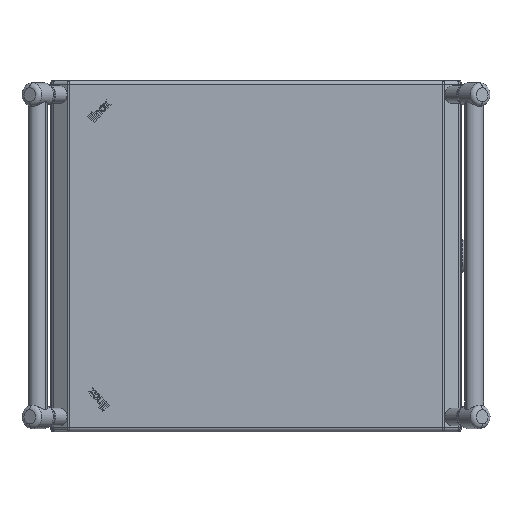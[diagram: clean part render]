
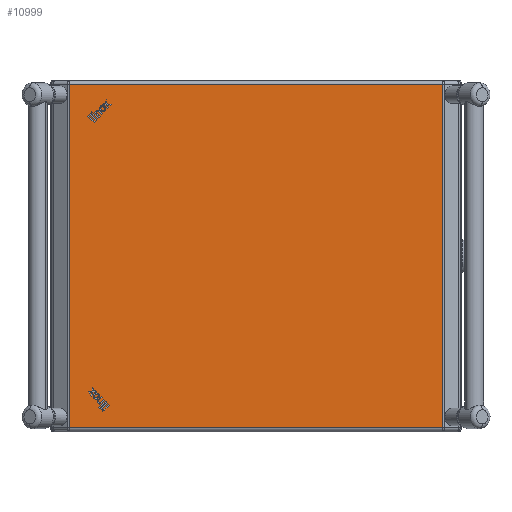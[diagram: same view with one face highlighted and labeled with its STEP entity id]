
A CAD part, top view. The second image highlights one B-rep face of the part: STEP entity #10999.
In plain terms, the highlighted planar face has unit normal (0, 0, 1).
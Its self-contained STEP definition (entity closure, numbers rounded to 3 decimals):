
#31 = DIRECTION ( 'NONE',  ( -1., 0., 0. ) ) ;
#711 = DIRECTION ( 'NONE',  ( 1., 0., 0. ) ) ;
#3689 = EDGE_LOOP ( 'NONE', ( #19853, #7361, #5133, #18988 ) ) ;
#4204 = CARTESIAN_POINT ( 'NONE',  ( 159.294, -146.35, 26.5 ) ) ;
#4538 = EDGE_CURVE ( 'NONE', #21639, #25942, #8353, .T. ) ;
#5133 = ORIENTED_EDGE ( 'NONE', *, *, #6192, .T. ) ;
#5534 = CARTESIAN_POINT ( 'NONE',  ( 159.294, -149.35, 26.5 ) ) ;
#6115 = CARTESIAN_POINT ( 'NONE',  ( -159.294, 146.35, 26.5 ) ) ;
#6192 = EDGE_CURVE ( 'NONE', #25942, #23770, #14739, .T. ) ;
#6253 = CARTESIAN_POINT ( 'NONE',  ( 159.294, 146.35, 26.5 ) ) ;
#7361 = ORIENTED_EDGE ( 'NONE', *, *, #4538, .T. ) ;
#8353 = LINE ( 'NONE', #24152, #10636 ) ;
#10225 = CARTESIAN_POINT ( 'NONE',  ( 174.35, -149.35, 26.5 ) ) ;
#10276 = CARTESIAN_POINT ( 'NONE',  ( -159.294, -149.35, 26.5 ) ) ;
#10424 = LINE ( 'NONE', #10276, #11781 ) ;
#10636 = VECTOR ( 'NONE', #28320, 1000. ) ;
#10902 = CARTESIAN_POINT ( 'NONE',  ( -160.25, 146.35, 26.5 ) ) ;
#10999 = ADVANCED_FACE ( 'NONE', ( #26332 ), #28411, .T. ) ;
#11781 = VECTOR ( 'NONE', #28317, 1000. ) ;
#13454 = VECTOR ( 'NONE', #16683, 1000. ) ;
#13483 = CARTESIAN_POINT ( 'NONE',  ( -159.294, -146.35, 26.5 ) ) ;
#14232 = DIRECTION ( 'NONE',  ( 0., 0., 1. ) ) ;
#14739 = LINE ( 'NONE', #5534, #13454 ) ;
#16683 = DIRECTION ( 'NONE',  ( 0., 1., 0. ) ) ;
#16802 = EDGE_CURVE ( 'NONE', #23770, #17294, #27293, .T. ) ;
#17294 = VERTEX_POINT ( 'NONE', #6115 ) ;
#18988 = ORIENTED_EDGE ( 'NONE', *, *, #16802, .T. ) ;
#19853 = ORIENTED_EDGE ( 'NONE', *, *, #26968, .T. ) ;
#20909 = VECTOR ( 'NONE', #31, 1000. ) ;
#21294 = AXIS2_PLACEMENT_3D ( 'NONE', #10225, #14232, #711 ) ;
#21639 = VERTEX_POINT ( 'NONE', #13483 ) ;
#23770 = VERTEX_POINT ( 'NONE', #6253 ) ;
#24152 = CARTESIAN_POINT ( 'NONE',  ( 160.25, -146.35, 26.5 ) ) ;
#25942 = VERTEX_POINT ( 'NONE', #4204 ) ;
#26332 = FACE_OUTER_BOUND ( 'NONE', #3689, .T. ) ;
#26968 = EDGE_CURVE ( 'NONE', #17294, #21639, #10424, .T. ) ;
#27293 = LINE ( 'NONE', #10902, #20909 ) ;
#28317 = DIRECTION ( 'NONE',  ( 0., -1., 0. ) ) ;
#28320 = DIRECTION ( 'NONE',  ( 1., 0., 0. ) ) ;
#28411 = PLANE ( 'NONE',  #21294 ) ;
